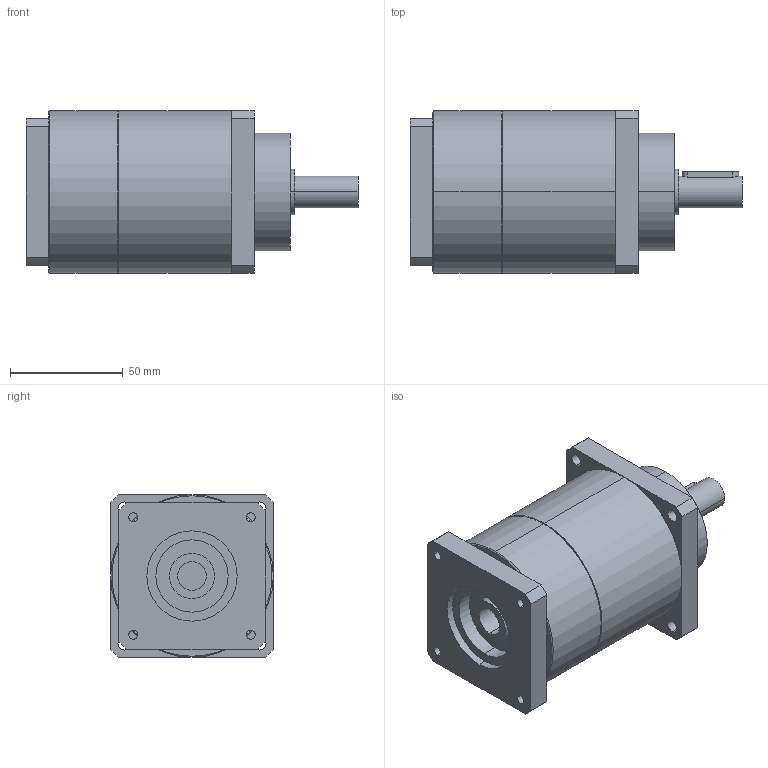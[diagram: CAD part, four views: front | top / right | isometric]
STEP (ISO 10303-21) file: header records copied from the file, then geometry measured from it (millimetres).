
FILE_DESCRIPTION(('CoCreate Modeling STEP Export'),'2;1');
FILE_NAME('GPT75_ig-9-12-16-20-25-28-35-40-50-70-100_14_B5T_12.7_P34.stp','2014-08-27T13:36:15',(''),(''),'CoCreate Modeling STEP processor for AP214 (Solid Model)','CoCreate Modeling 16.00C 25-Feb-2009 (C) Parametric Technology GmbH','');
FILE_SCHEMA(('AUTOMOTIVE_DESIGN { 1 0 10303 214 1 1 1 1 }'));
Length unit declared in the file: millimetre
Products named in the file (2): GPT75_ig-9-12-16-20-25-28-35-40-50-70-100_14_B5T_12.7_P34
Assembly tree (1 placements, depth 2):
  GPT75_ig-9-12-16-20-25-28-35-40-50-70-100_14_B5T_12.7_P34
    GPT75_ig-9-12-16-20-25-28-35-40-50-70-100_14_B5T_12.7_P34
Bounding box: 147 x 72 x 72 mm (x, y, z)
Volume: 448247.8 mm3; surface area: 42787.1 mm2
Topology: 1 solids, 1 shells, 88 faces, 226 edges, 145 vertices
Faces by surface type: cylinder 46, plane 38, cone 4
Entity records: 2676 total; most frequent: CARTESIAN_POINT 744, ORIENTED_EDGE 452, DIRECTION 334, EDGE_CURVE 226, VERTEX_POINT 145, AXIS2_PLACEMENT_3D 123, EDGE_LOOP 109, VECTOR 88
